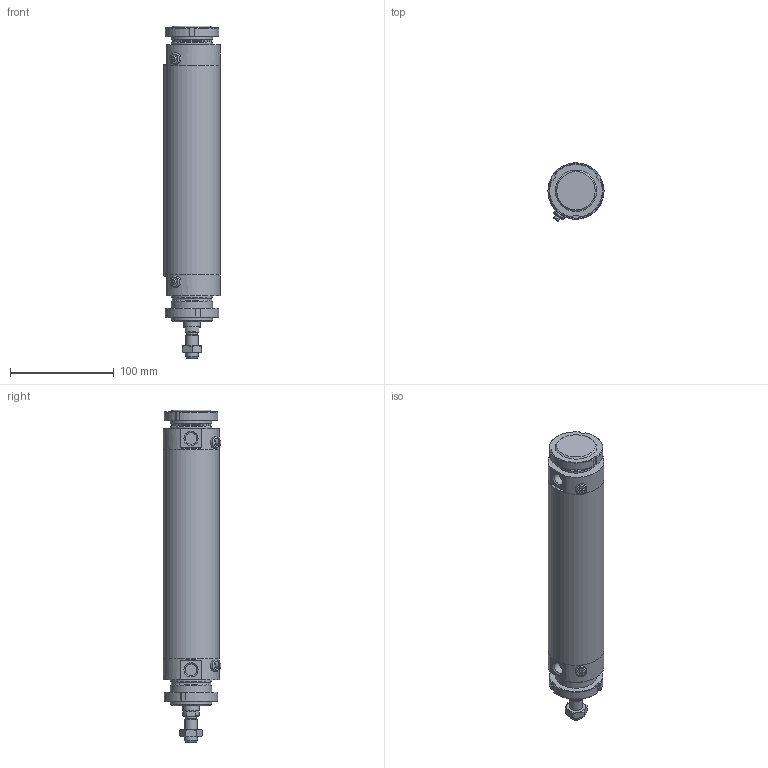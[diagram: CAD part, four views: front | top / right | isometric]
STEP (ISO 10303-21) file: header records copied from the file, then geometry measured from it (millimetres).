
FILE_DESCRIPTION(/* description */ (''),/* implementation_level */ '2;1');
FILE_NAME(/* name */ 'I:\Area Tecnica\Documenti\A-Manieri\_Inventor\12X\12X#C_###_####_#_#\12XBC_050_0160_#_#.stp',/* time_stamp */ '2015-04-28T15:43:52+02:00',/* author */ ('maniean1'),/* organization */ ('Pneumax S.p.A.'),/* preprocessor_version */ 'ST-DEVELOPER v15.2',/* originating_system */ 'Autodesk Inventor 2014',/* authorisation */ '');
FILE_SCHEMA (('AUTOMOTIVE_DESIGN { 1 0 10303 214 3 1 1 }'));
Length unit declared in the file: millimetre
Products named in the file (7): C1250_619-0160; 12X50_606; S12X50_0160; 12X_50_11; 12X50_621; G12X_050_05; 12XBC_050_0160_#_#
Bounding box: 54 x 55.88 x 320 mm (x, y, z)
Volume: 346578.7 mm3; surface area: 122342.3 mm2
Topology: 7 solids, 7 shells, 124 faces, 282 edges, 182 vertices
Faces by surface type: plane 64, cylinder 31, cone 27, torus 2
Full cylindrical faces by diameter (mm): 5 x2, 10.2 x1, 11 x2, 11.4 x2, 12 x2, 14 x1, 15.6 x1, 16 x1, 38.2 x2, 40 x6, 50 x2, 54 x3
Entity records: 2755 total; most frequent: CARTESIAN_POINT 553, DIRECTION 462, ORIENTED_EDGE 356, AXIS2_PLACEMENT_3D 197, EDGE_CURVE 178, EDGE_LOOP 160, VERTEX_POINT 136, ADVANCED_FACE 103
